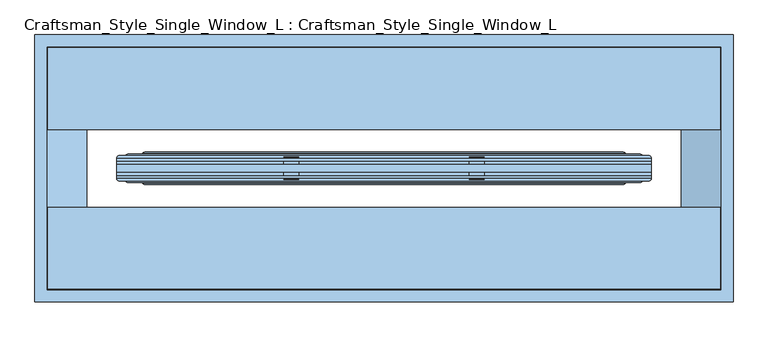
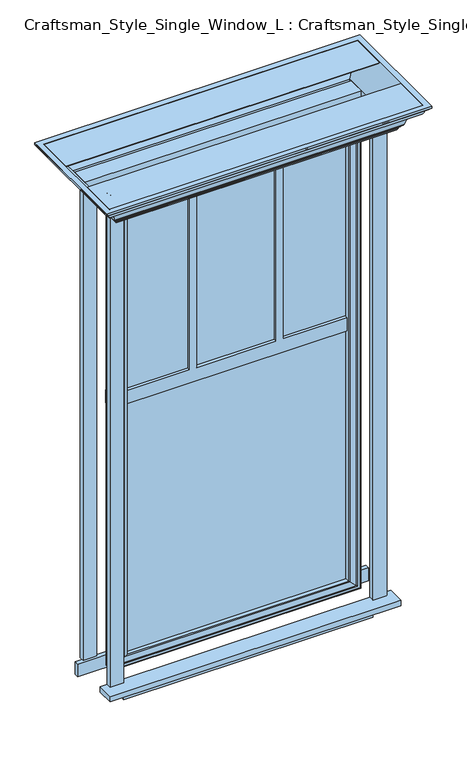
"""IFC4 building model written with IfcOpenShell, lengths in millimetres: window geometry, Craftsman_Style_Single_Window_L : Craftsman_Style_Single_Window_L."""

from ifc_helpers import new_model, si_unit, frame, origin, place, context, project, spatial, polyline, ellipse_curve, outline, extrude, source, transform, mapped, element, save
from ifc_brep_helpers import plane_surface, cylinder_surface, revolved_surface, advanced_brep


def craftsman_style_single_window_l_craftsman_style_single_78b914de(model_context):
    return source(origin(), model_context, "Body", "SolidModel", [
        extrude(outline(polyline([(507.9425208, 76.2), (457.2321354, 76.2), (457.2321354, 95.25), (507.9425208, 95.25), (507.9425208, 76.2)])), frame((0.0, 0.0, 914.4574792), z_axis=(0.0, 0.0, 1.0), x_axis=(1.0, 0.0, 0.0)), (0.0, 0.0, 1.0), 1828.7425208),
        extrude(outline(polyline([(-457.2574792, 76.2), (-508.0574792, 76.2), (-508.0574792, 95.25), (-457.2574792, 95.25), (-457.2574792, 76.2)])), frame((0.0, 0.0, 914.4), z_axis=(0.0, 0.0, 1.0), x_axis=(1.0, 0.0, 0.0)), (0.0, 0.0, 1.0), 1828.8),
        extrude(outline(polyline([(-457.1836897, -95.25), (-507.9425208, -95.25), (-507.9425208, -76.2), (-457.1836897, -76.2), (-457.1836897, -95.25)])), frame((0.0, 0.0, 914.4574792), z_axis=(0.0, 0.0, 1.0), x_axis=(1.0, 0.0, 0.0)), (0.0, 0.0, 1.0), 1828.7264525),
        extrude(outline(polyline([(508.0163103, -95.25), (457.2163103, -95.25), (457.2163103, -76.2), (508.0163103, -76.2), (508.0163103, -95.25)])), frame((0.0, 0.0, 914.3839317), z_axis=(0.0, 0.0, 1.0), x_axis=(1.0, 0.0, 0.0)), (0.0, 0.0, 1.0), 1828.8),
        advanced_brep(
        [(406.3425208, 12.9504719, 2692.3425208), (406.3425208, 27.586435, 2692.3425208), (406.3425208, 27.586435, 965.2574792), (406.3425208, 12.9504719, 965.2574792), (413.5984811, 25.375079, 2699.5984811), (413.5984811, 25.375079, 958.0015189), (-406.3425208, 27.586435, 965.2574792), (-406.3425208, 12.9504719, 965.2574792), (410.0284768, 12.9504719, 2696.0284768), (-410.0284768, 12.9504719, 2696.0284768), (-410.0284768, 12.9504719, 961.5715232), (410.0284768, 12.9504719, 961.5715232), (-406.3425208, 12.9504719, 2692.3425208), (411.1859948, 14.1079899, 2697.1859948), (411.1859948, 14.1079899, 960.4140052), (-411.1859948, 14.1079899, 960.4140052), (430.0429611, 14.1079899, 2716.0429611), (-430.0429611, 14.1079899, 2716.0429611), (-430.0429611, 14.1079899, 941.5570389), (430.0429611, 14.1079899, 941.5570389), (-411.1859948, 14.1079899, 2697.1859948), (431.2842472, 12.9504719, 2717.2842472), (431.2842472, 12.9504719, 940.3157528), (-431.2842472, 12.9504719, 940.3157528), (457.1425208, 12.9504719, 2743.1425208), (-457.1425208, 12.9504719, 2743.1425208), (-457.1425208, 12.9504719, 914.4574792), (457.1425208, 12.9504719, 914.4574792), (-431.2842472, 12.9504719, 2717.2842472), (457.1425208, 16.8138023, 2743.1425208), (457.1425208, 16.8138023, 914.4574792), (-457.1425208, 16.8138023, 914.4574792), (452.3810299, 21.6743318, 2738.3810299), (452.3810299, 21.6743318, 919.2189701), (-452.3810299, 21.6743318, 919.2189701), (-452.3810299, 21.6743318, 2738.3810299), (442.5211044, 21.6743318, 2728.5211044), (-442.5211044, 21.6743318, 2728.5211044), (-442.5211044, 21.6743318, 929.0788956), (442.5211044, 21.6743318, 929.0788956), (436.9638136, 24.2001393, 2722.9638136), (436.9638136, 24.2001393, 934.6361864), (-436.9638136, 24.2001393, 934.6361864), (-413.5984811, 25.375079, 958.0015189), (-406.3425208, 27.586435, 2692.3425208), (-457.1425208, 16.8138023, 2743.1425208), (-436.9638136, 24.2001393, 2722.9638136), (-413.5984811, 25.375079, 2699.5984811)],
        [
            (0, 1),
            (1, 2),
            (2, 3),
            (3, 0),
            (1, 4, ellipse_curve(frame((408.0559717, 20.1987526, 2694.0559717), z_axis=(0.7071067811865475, 0.0, -0.7071067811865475), x_axis=(0.7071067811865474, 0.0, 0.7071067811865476)), 10.7250889, 7.5837831)),
            (4, 5),
            (5, 2, ellipse_curve(frame((408.0559717, 20.1987526, 963.5440283), z_axis=(0.7071067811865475, 0.0, 0.7071067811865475), x_axis=(-0.7071067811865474, 0.0, 0.7071067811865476)), 10.7250889, 7.5837831)),
            (2, 6),
            (6, 7),
            (7, 3),
            (8, 9),
            (9, 10),
            (10, 11),
            (11, 8),
            (7, 12),
            (12, 0),
            (13, 8),
            (11, 14),
            (14, 13),
            (10, 15),
            (15, 14),
            (16, 17),
            (17, 18),
            (18, 19),
            (19, 16),
            (15, 20),
            (20, 13),
            (21, 16),
            (19, 22),
            (22, 21),
            (18, 23),
            (23, 22),
            (24, 25),
            (25, 26),
            (26, 27),
            (27, 24),
            (23, 28),
            (28, 21),
            (29, 24),
            (27, 30),
            (30, 29),
            (26, 31),
            (31, 30),
            (32, 29, ellipse_curve(frame((452.3810299, 16.9118318, 2738.3810299), z_axis=(0.7071067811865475, 0.0, -0.7071067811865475), x_axis=(0.7071067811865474, 0.0, 0.7071067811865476)), 6.7351921, 4.7625)),
            (30, 33, ellipse_curve(frame((452.3810299, 16.9118318, 919.2189701), z_axis=(0.7071067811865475, 0.0, 0.7071067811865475), x_axis=(-0.7071067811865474, 0.0, 0.7071067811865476)), 6.7351921, 4.7625)),
            (33, 32),
            (31, 34, ellipse_curve(frame((-452.3810299, 16.9118318, 919.2189701), z_axis=(0.7071067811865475, 0.0, -0.7071067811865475), x_axis=(0.7071067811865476, 0.0, 0.7071067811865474)), 6.7351921, 4.7625)),
            (34, 33),
            (34, 35),
            (35, 32),
            (36, 37),
            (37, 38),
            (38, 39),
            (39, 36),
            (40, 36, ellipse_curve(frame((437.7371633, 18.5251767, 2723.7371633), z_axis=(0.7071067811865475, 0.0, -0.7071067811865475), x_axis=(0.7071067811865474, 0.0, 0.7071067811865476)), 8.0997864, 5.7274139)),
            (39, 41, ellipse_curve(frame((437.7371633, 18.5251767, 933.8628367), z_axis=(0.7071067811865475, 0.0, 0.7071067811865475), x_axis=(-0.7071067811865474, 0.0, 0.7071067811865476)), 8.0997864, 5.7274139)),
            (41, 40),
            (38, 42, ellipse_curve(frame((-437.7371633, 18.5251767, 933.8628367), z_axis=(0.7071067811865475, 0.0, -0.7071067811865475), x_axis=(0.7071067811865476, 0.0, 0.7071067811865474)), 8.0997864, 5.7274139)),
            (42, 41),
            (4, 40, ellipse_curve(frame((428.4085351, 86.9801248, 2714.4085351), z_axis=(-0.7071067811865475, 0.0, 0.7071067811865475), x_axis=(-0.7071067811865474, 0.0, -0.7071067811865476)), 89.6049036, 63.3602349)),
            (41, 5, ellipse_curve(frame((428.4085351, 86.9801248, 943.1914649), z_axis=(-0.7071067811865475, 0.0, -0.7071067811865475), x_axis=(0.7071067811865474, 0.0, -0.7071067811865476)), 89.6049036, 63.3602349)),
            (42, 43, ellipse_curve(frame((-428.4085351, 86.9801248, 943.1914649), z_axis=(-0.7071067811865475, 0.0, 0.7071067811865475), x_axis=(-0.7071067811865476, 0.0, -0.7071067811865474)), 89.6049036, 63.3602349)),
            (43, 5),
            (43, 6, ellipse_curve(frame((-408.0559717, 20.1987526, 963.5440283), z_axis=(0.7071067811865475, 0.0, -0.7071067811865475), x_axis=(0.7071067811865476, 0.0, 0.7071067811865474)), 10.7250889, 7.5837831)),
            (6, 44),
            (44, 12),
            (9, 20),
            (17, 28),
            (25, 45),
            (45, 31),
            (45, 35, ellipse_curve(frame((-452.3810299, 16.9118318, 2738.3810299), z_axis=(-0.7071067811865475, 0.0, -0.7071067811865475), x_axis=(0.7071067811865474, 0.0, -0.7071067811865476)), 6.7351921, 4.7625)),
            (37, 46, ellipse_curve(frame((-437.7371633, 18.5251767, 2723.7371633), z_axis=(-0.7071067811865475, 0.0, -0.7071067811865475), x_axis=(0.7071067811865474, 0.0, -0.7071067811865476)), 8.0997864, 5.7274139)),
            (46, 42),
            (46, 47, ellipse_curve(frame((-428.4085351, 86.9801248, 2714.4085351), z_axis=(0.7071067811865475, 0.0, 0.7071067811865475), x_axis=(-0.7071067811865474, 0.0, 0.7071067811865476)), 89.6049036, 63.3602349)),
            (47, 43),
            (47, 44, ellipse_curve(frame((-408.0559717, 20.1987526, 2694.0559717), z_axis=(-0.7071067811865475, 0.0, -0.7071067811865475), x_axis=(0.7071067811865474, 0.0, -0.7071067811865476)), 10.7250889, 7.5837831)),
            (44, 1),
            (29, 45),
            (40, 46),
            (4, 47),
        ],
        [
            plane_surface(frame((406.3425208, 27.586435, 2692.3425208), z_axis=(-1.0, 0.0, 0.0), x_axis=(0.0, 0.0, -1.0))),
            cylinder_surface(frame((408.0559717, 20.1987526, 2743.2), z_axis=(0.0, 0.0, 1.0), x_axis=(0.0, 1.0, 0.0)), 7.5837831),
            plane_surface(frame((406.3425208, 27.586435, 965.2574792), z_axis=(0.0, 0.0, 1.0), x_axis=(-1.0, 0.0, 0.0))),
            plane_surface(frame((-406.3425208, 12.9504719, 2692.3425208), z_axis=(0.0, -1.0, 0.0), x_axis=(1.0, 0.0, 0.0))),
            plane_surface(frame((410.0284768, 12.9504719, 2696.0284768), z_axis=(0.707106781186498, -0.7071067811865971, 0.0), x_axis=(0.0, 0.0, -1.0))),
            plane_surface(frame((410.0284768, 12.9504719, 961.5715232), z_axis=(0.0, -0.7071067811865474, -0.7071067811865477), x_axis=(-1.0, 0.0, 0.0))),
            plane_surface(frame((-411.1859948, 14.1079899, 2697.1859948), z_axis=(0.0, -1.0, 0.0), x_axis=(1.0, 0.0, 0.0))),
            plane_surface(frame((430.0429611, 14.1079899, 2716.0429611), z_axis=(-0.6819983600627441, -0.7313537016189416, 0.0), x_axis=(0.0, 0.0, -1.0))),
            plane_surface(frame((430.0429611, 14.1079899, 941.5570389), z_axis=(0.0, -0.7313537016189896, 0.6819983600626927), x_axis=(-1.0, 0.0, 0.0))),
            plane_surface(frame((-431.2842472, 12.9504719, 2717.2842472), z_axis=(0.0, -1.0, 0.0), x_axis=(1.0, 0.0, 0.0))),
            plane_surface(frame((457.1425208, 12.9504719, 2743.1425208), z_axis=(1.0, 0.0, 0.0), x_axis=(0.0, 0.0, -1.0))),
            plane_surface(frame((457.1425208, 12.9504719, 914.4574792), z_axis=(0.0, 0.0, -1.0), x_axis=(-1.0, 0.0, 0.0))),
            cylinder_surface(frame((452.3810299, 16.9118318, 2743.2), z_axis=(0.0, 0.0, 1.0), x_axis=(0.0, 1.0, 0.0)), 4.7625),
            cylinder_surface(frame((457.2, 16.9118318, 919.2189701), z_axis=(1.0, 0.0, 0.0), x_axis=(0.0, 1.0, 0.0)), 4.7625),
            plane_surface(frame((-452.3810299, 21.6743318, 2738.3810299), z_axis=(0.0, 1.0, 0.0), x_axis=(1.0, 0.0, 0.0))),
            cylinder_surface(frame((437.7371633, 18.5251767, 2743.2), z_axis=(0.0, 0.0, 1.0), x_axis=(0.0, 1.0, 0.0)), 5.7274139),
            cylinder_surface(frame((457.2, 18.5251767, 933.8628367), z_axis=(1.0, 0.0, 0.0), x_axis=(0.0, 1.0, 0.0)), 5.7274139),
            revolved_surface(polyline([(428.4085351, 150.3403597, 879.8312299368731), (428.4085351, 150.3403597, 2777.768770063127)]), (428.4085351, 86.9801248, 2743.2), (0.0, 0.0, -1.0)),
            revolved_surface(polyline([(-491.76877006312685, 150.3403597, 943.1914649), (491.76877006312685, 150.3403597, 943.1914649)]), (457.2, 86.9801248, 943.1914649), (-1.0, 0.0, 0.0)),
            cylinder_surface(frame((457.2, 20.1987526, 963.5440283), z_axis=(1.0, 0.0, 0.0), x_axis=(0.0, 1.0, 0.0)), 7.5837831),
            plane_surface(frame((-406.3425208, 27.586435, 965.2574792), z_axis=(1.0, 0.0, 0.0), x_axis=(0.0, 0.0, 1.0))),
            plane_surface(frame((-410.0284768, 12.9504719, 961.5715232), z_axis=(-0.7071067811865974, -0.7071067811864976, 0.0), x_axis=(0.0, 0.0, 1.0))),
            plane_surface(frame((-430.0429611, 14.1079899, 941.5570389), z_axis=(0.6819983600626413, -0.7313537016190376, 0.0), x_axis=(0.0, 0.0, 1.0))),
            plane_surface(frame((-457.1425208, 12.9504719, 914.4574792), z_axis=(-1.0, 0.0, 0.0), x_axis=(0.0, 0.0, 1.0))),
            cylinder_surface(frame((-452.3810299, 16.9118318, 914.4), z_axis=(0.0, 0.0, -1.0), x_axis=(0.0, 1.0, 0.0)), 4.7625),
            cylinder_surface(frame((-437.7371633, 18.5251767, 914.4), z_axis=(0.0, 0.0, -1.0), x_axis=(0.0, 1.0, 0.0)), 5.7274139),
            revolved_surface(polyline([(-428.4085351, 150.3403597, 2777.768770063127), (-428.4085351, 150.3403597, 879.8312299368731)]), (-428.4085351, 86.9801248, 914.4), (0.0, 0.0, 1.0)),
            cylinder_surface(frame((-408.0559717, 20.1987526, 914.4), z_axis=(0.0, 0.0, -1.0), x_axis=(0.0, 1.0, 0.0)), 7.5837831),
            plane_surface(frame((-406.3425208, 27.586435, 2692.3425208), z_axis=(0.0, 0.0, -1.0), x_axis=(1.0, 0.0, 0.0))),
            plane_surface(frame((-410.0284768, 12.9504719, 2696.0284768), z_axis=(0.0, -0.7071067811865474, 0.7071067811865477), x_axis=(1.0, 0.0, 0.0))),
            plane_surface(frame((-430.0429611, 14.1079899, 2716.0429611), z_axis=(0.0, -0.7313537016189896, -0.6819983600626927), x_axis=(1.0, 0.0, 0.0))),
            plane_surface(frame((-457.1425208, 12.9504719, 2743.1425208), z_axis=(0.0, 0.0, 1.0), x_axis=(1.0, 0.0, 0.0))),
            cylinder_surface(frame((-457.2, 16.9118318, 2738.3810299), z_axis=(-1.0, 0.0, 0.0), x_axis=(0.0, 1.0, 0.0)), 4.7625),
            cylinder_surface(frame((-457.2, 18.5251767, 2723.7371633), z_axis=(-1.0, 0.0, 0.0), x_axis=(0.0, 1.0, 0.0)), 5.7274139),
            revolved_surface(polyline([(491.76877006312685, 150.3403597, 2714.4085351), (-491.76877006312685, 150.3403597, 2714.4085351)]), (-457.2, 86.9801248, 2714.4085351), (1.0, 0.0, 0.0)),
            cylinder_surface(frame((-457.2, 20.1987526, 2694.0559717), z_axis=(-1.0, 0.0, 0.0), x_axis=(0.0, 1.0, 0.0)), 7.5837831),
        ],
        [
            (0, [[1, 2, 3, 4]]),
            (1, [[5, 6, 7, -2]]),
            (2, [[-3, 8, 9, 10]]),
            (3, [[11, 12, 13, 14], [-10, 15, 16, -4]]),
            (4, [[17, -14, 18, 19]]),
            (5, [[-18, -13, 20, 21]]),
            (6, [[22, 23, 24, 25], [-21, 26, 27, -19]]),
            (7, [[28, -25, 29, 30]]),
            (8, [[-29, -24, 31, 32]]),
            (9, [[33, 34, 35, 36], [-32, 37, 38, -30]]),
            (10, [[39, -36, 40, 41]]),
            (11, [[-40, -35, 42, 43]]),
            (12, [[44, -41, 45, 46]]),
            (13, [[-45, -43, 47, 48]]),
            (14, [[-48, 49, 50, -46], [51, 52, 53, 54]]),
            (15, [[55, -54, 56, 57]]),
            (16, [[-56, -53, 58, 59]]),
            (17, [[60, -57, 61, -6]]),
            (18, [[-61, -59, 62, 63]]),
            (19, [[-7, -63, 64, -8]]),
            (20, [[-9, 65, 66, -15]]),
            (21, [[-20, -12, 67, -26]]),
            (22, [[-31, -23, 68, -37]]),
            (23, [[-42, -34, 69, 70]]),
            (24, [[-47, -70, 71, -49]]),
            (25, [[-58, -52, 72, 73]]),
            (26, [[-62, -73, 74, 75]]),
            (27, [[-64, -75, 76, -65]]),
            (28, [[-66, 77, -1, -16]]),
            (29, [[-67, -11, -17, -27]]),
            (30, [[-68, -22, -28, -38]]),
            (31, [[-69, -33, -39, 78]]),
            (32, [[-71, -78, -44, -50]]),
            (33, [[-72, -51, -55, 79]]),
            (34, [[-74, -79, -60, 80]]),
            (35, [[-76, -80, -5, -77]]),
        ],
    ),
        advanced_brep(
        [(-406.3425208, -12.7, 2692.3425208), (-406.3425208, -27.3359632, 2692.3425208), (-406.3425208, -27.3359632, 965.2574792), (-406.3425208, -12.7, 965.2574792), (-413.5984811, -25.1246071, 2699.5984811), (-413.5984811, -25.1246071, 958.0015189), (406.3425208, -27.3359632, 965.2574792), (406.3425208, -12.7, 965.2574792), (-410.0284768, -12.7, 2696.0284768), (410.0284768, -12.7, 2696.0284768), (410.0284768, -12.7, 961.5715232), (-410.0284768, -12.7, 961.5715232), (406.3425208, -12.7, 2692.3425208), (-411.1859948, -13.857518, 2697.1859948), (-411.1859948, -13.857518, 960.4140052), (411.1859948, -13.857518, 960.4140052), (-430.0429611, -13.857518, 2716.0429611), (430.0429611, -13.857518, 2716.0429611), (430.0429611, -13.857518, 941.5570389), (-430.0429611, -13.857518, 941.5570389), (411.1859948, -13.857518, 2697.1859948), (-431.2842472, -12.7, 2717.2842472), (-431.2842472, -12.7, 940.3157528), (431.2842472, -12.7, 940.3157528), (-457.1425208, -12.7, 2743.1425208), (457.1425208, -12.7, 2743.1425208), (457.1425208, -12.7, 914.4574792), (-457.1425208, -12.7, 914.4574792), (431.2842472, -12.7, 2717.2842472), (-457.1425208, -16.5633304, 2743.1425208), (-457.1425208, -16.5633304, 914.4574792), (457.1425208, -16.5633304, 914.4574792), (-452.3810299, -21.4238599, 2738.3810299), (-452.3810299, -21.4238599, 919.2189701), (452.3810299, -21.4238599, 919.2189701), (452.3810299, -21.4238599, 2738.3810299), (-442.5211044, -21.4238599, 2728.5211044), (442.5211044, -21.4238599, 2728.5211044), (442.5211044, -21.4238599, 929.0788956), (-442.5211044, -21.4238599, 929.0788956), (-436.9638136, -23.9496674, 2722.9638136), (-436.9638136, -23.9496674, 934.6361864), (436.9638136, -23.9496674, 934.6361864), (413.5984811, -25.1246071, 958.0015189), (406.3425208, -27.3359632, 2692.3425208), (457.1425208, -16.5633304, 2743.1425208), (436.9638136, -23.9496674, 2722.9638136), (413.5984811, -25.1246071, 2699.5984811)],
        [
            (0, 1),
            (1, 2),
            (2, 3),
            (3, 0),
            (1, 4, ellipse_curve(frame((-408.0559717, -19.9482807, 2694.0559717), z_axis=(-0.7071067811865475, 0.0, -0.7071067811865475), x_axis=(-0.7071067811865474, 0.0, 0.7071067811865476)), 10.7250889, 7.5837831)),
            (4, 5),
            (5, 2, ellipse_curve(frame((-408.0559717, -19.9482807, 963.5440283), z_axis=(-0.7071067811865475, 0.0, 0.7071067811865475), x_axis=(0.7071067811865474, 0.0, 0.7071067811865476)), 10.7250889, 7.5837831)),
            (2, 6),
            (6, 7),
            (7, 3),
            (8, 9),
            (9, 10),
            (10, 11),
            (11, 8),
            (7, 12),
            (12, 0),
            (13, 8),
            (11, 14),
            (14, 13),
            (10, 15),
            (15, 14),
            (16, 17),
            (17, 18),
            (18, 19),
            (19, 16),
            (15, 20),
            (20, 13),
            (21, 16),
            (19, 22),
            (22, 21),
            (18, 23),
            (23, 22),
            (24, 25),
            (25, 26),
            (26, 27),
            (27, 24),
            (23, 28),
            (28, 21),
            (29, 24),
            (27, 30),
            (30, 29),
            (26, 31),
            (31, 30),
            (32, 29, ellipse_curve(frame((-452.3810299, -16.6613599, 2738.3810299), z_axis=(-0.7071067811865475, 0.0, -0.7071067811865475), x_axis=(-0.7071067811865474, 0.0, 0.7071067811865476)), 6.7351921, 4.7625)),
            (30, 33, ellipse_curve(frame((-452.3810299, -16.6613599, 919.2189701), z_axis=(-0.7071067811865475, 0.0, 0.7071067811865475), x_axis=(0.7071067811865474, 0.0, 0.7071067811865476)), 6.7351921, 4.7625)),
            (33, 32),
            (31, 34, ellipse_curve(frame((452.3810299, -16.6613599, 919.2189701), z_axis=(-0.7071067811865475, 0.0, -0.7071067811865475), x_axis=(-0.7071067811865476, 0.0, 0.7071067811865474)), 6.7351921, 4.7625)),
            (34, 33),
            (34, 35),
            (35, 32),
            (36, 37),
            (37, 38),
            (38, 39),
            (39, 36),
            (40, 36, ellipse_curve(frame((-437.7371633, -18.2747049, 2723.7371633), z_axis=(-0.7071067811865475, 0.0, -0.7071067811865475), x_axis=(-0.7071067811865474, 0.0, 0.7071067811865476)), 8.0997864, 5.7274139)),
            (39, 41, ellipse_curve(frame((-437.7371633, -18.2747049, 933.8628367), z_axis=(-0.7071067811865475, 0.0, 0.7071067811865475), x_axis=(0.7071067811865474, 0.0, 0.7071067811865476)), 8.0997864, 5.7274139)),
            (41, 40),
            (38, 42, ellipse_curve(frame((437.7371633, -18.2747049, 933.8628367), z_axis=(-0.7071067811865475, 0.0, -0.7071067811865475), x_axis=(-0.7071067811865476, 0.0, 0.7071067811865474)), 8.0997864, 5.7274139)),
            (42, 41),
            (4, 40, ellipse_curve(frame((-428.4085351, -86.7296529, 2714.4085351), z_axis=(0.7071067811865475, 0.0, 0.7071067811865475), x_axis=(0.7071067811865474, 0.0, -0.7071067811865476)), 89.6049036, 63.3602349)),
            (41, 5, ellipse_curve(frame((-428.4085351, -86.7296529, 943.1914649), z_axis=(0.7071067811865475, 0.0, -0.7071067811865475), x_axis=(-0.7071067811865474, 0.0, -0.7071067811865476)), 89.6049036, 63.3602349)),
            (42, 43, ellipse_curve(frame((428.4085351, -86.7296529, 943.1914649), z_axis=(0.7071067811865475, 0.0, 0.7071067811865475), x_axis=(0.7071067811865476, 0.0, -0.7071067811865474)), 89.6049036, 63.3602349)),
            (43, 5),
            (43, 6, ellipse_curve(frame((408.0559717, -19.9482807, 963.5440283), z_axis=(-0.7071067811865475, 0.0, -0.7071067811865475), x_axis=(-0.7071067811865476, 0.0, 0.7071067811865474)), 10.7250889, 7.5837831)),
            (6, 44),
            (44, 12),
            (9, 20),
            (17, 28),
            (25, 45),
            (45, 31),
            (45, 35, ellipse_curve(frame((452.3810299, -16.6613599, 2738.3810299), z_axis=(0.7071067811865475, 0.0, -0.7071067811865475), x_axis=(-0.7071067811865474, 0.0, -0.7071067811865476)), 6.7351921, 4.7625)),
            (37, 46, ellipse_curve(frame((437.7371633, -18.2747049, 2723.7371633), z_axis=(0.7071067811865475, 0.0, -0.7071067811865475), x_axis=(-0.7071067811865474, 0.0, -0.7071067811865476)), 8.0997864, 5.7274139)),
            (46, 42),
            (46, 47, ellipse_curve(frame((428.4085351, -86.7296529, 2714.4085351), z_axis=(-0.7071067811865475, 0.0, 0.7071067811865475), x_axis=(0.7071067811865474, 0.0, 0.7071067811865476)), 89.6049036, 63.3602349)),
            (47, 43),
            (47, 44, ellipse_curve(frame((408.0559717, -19.9482807, 2694.0559717), z_axis=(0.7071067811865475, 0.0, -0.7071067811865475), x_axis=(-0.7071067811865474, 0.0, -0.7071067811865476)), 10.7250889, 7.5837831)),
            (44, 1),
            (29, 45),
            (40, 46),
            (4, 47),
        ],
        [
            plane_surface(frame((-406.3425208, -27.3359632, 2692.3425208), z_axis=(1.0, 0.0, 0.0), x_axis=(0.0, 0.0, -1.0))),
            cylinder_surface(frame((-408.0559717, -19.9482807, 2743.2), z_axis=(0.0, 0.0, 1.0), x_axis=(0.0, -1.0, 0.0)), 7.5837831),
            plane_surface(frame((-406.3425208, -27.3359632, 965.2574792), z_axis=(0.0, 0.0, 1.0), x_axis=(1.0, 0.0, 0.0))),
            plane_surface(frame((406.3425208, -12.7, 2692.3425208), z_axis=(0.0, 1.0, 0.0), x_axis=(-1.0, 0.0, 0.0))),
            plane_surface(frame((-410.0284768, -12.7, 2696.0284768), z_axis=(-0.7071067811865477, 0.7071067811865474, 0.0), x_axis=(0.0, 0.0, -1.0))),
            plane_surface(frame((-410.0284768, -12.7, 961.5715232), z_axis=(0.0, 0.7071067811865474, -0.7071067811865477), x_axis=(1.0, 0.0, 0.0))),
            plane_surface(frame((411.1859948, -13.857518, 2697.1859948), z_axis=(0.0, 1.0, 0.0), x_axis=(-1.0, 0.0, 0.0))),
            plane_surface(frame((-430.0429611, -13.857518, 2716.0429611), z_axis=(0.6819983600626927, 0.7313537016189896, 0.0), x_axis=(0.0, 0.0, -1.0))),
            plane_surface(frame((-430.0429611, -13.857518, 941.5570389), z_axis=(0.0, 0.7313537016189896, 0.6819983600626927), x_axis=(1.0, 0.0, 0.0))),
            plane_surface(frame((431.2842472, -12.7, 2717.2842472), z_axis=(0.0, 1.0, 0.0), x_axis=(-1.0, 0.0, 0.0))),
            plane_surface(frame((-457.1425208, -12.7, 2743.1425208), z_axis=(-1.0, 0.0, 0.0), x_axis=(0.0, 0.0, -1.0))),
            plane_surface(frame((-457.1425208, -12.7, 914.4574792), z_axis=(0.0, 0.0, -1.0), x_axis=(1.0, 0.0, 0.0))),
            cylinder_surface(frame((-452.3810299, -16.6613599, 2743.2), z_axis=(0.0, 0.0, 1.0), x_axis=(0.0, -1.0, 0.0)), 4.7625),
            cylinder_surface(frame((-457.2, -16.6613599, 919.2189701), z_axis=(-1.0, 0.0, 0.0), x_axis=(0.0, -1.0, 0.0)), 4.7625),
            plane_surface(frame((452.3810299, -21.4238599, 2738.3810299), z_axis=(0.0, -1.0, 0.0), x_axis=(-1.0, 0.0, 0.0))),
            cylinder_surface(frame((-437.7371633, -18.2747049, 2743.2), z_axis=(0.0, 0.0, 1.0), x_axis=(0.0, -1.0, 0.0)), 5.7274139),
            cylinder_surface(frame((-457.2, -18.2747049, 933.8628367), z_axis=(-1.0, 0.0, 0.0), x_axis=(0.0, -1.0, 0.0)), 5.7274139),
            revolved_surface(polyline([(-428.4085351, -150.0898878, 879.8312299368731), (-428.4085351, -150.0898878, 2777.768770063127)]), (-428.4085351, -86.7296529, 2743.2), (0.0, 0.0, -1.0)),
            revolved_surface(polyline([(491.76877006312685, -150.0898878, 943.1914649), (-491.76877006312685, -150.0898878, 943.1914649)]), (-457.2, -86.7296529, 943.1914649), (1.0, 0.0, 0.0)),
            cylinder_surface(frame((-457.2, -19.9482807, 963.5440283), z_axis=(-1.0, 0.0, 0.0), x_axis=(0.0, -1.0, 0.0)), 7.5837831),
            plane_surface(frame((406.3425208, -27.3359632, 965.2574792), z_axis=(-1.0, 0.0, 0.0), x_axis=(0.0, 0.0, 1.0))),
            plane_surface(frame((410.0284768, -12.7, 961.5715232), z_axis=(0.7071067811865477, 0.7071067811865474, 0.0), x_axis=(0.0, 0.0, 1.0))),
            plane_surface(frame((430.0429611, -13.857518, 941.5570389), z_axis=(-0.6819983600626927, 0.7313537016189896, 0.0), x_axis=(0.0, 0.0, 1.0))),
            plane_surface(frame((457.1425208, -12.7, 914.4574792), z_axis=(1.0, 0.0, 0.0), x_axis=(0.0, 0.0, 1.0))),
            cylinder_surface(frame((452.3810299, -16.6613599, 914.4), z_axis=(0.0, 0.0, -1.0), x_axis=(0.0, -1.0, 0.0)), 4.7625),
            cylinder_surface(frame((437.7371633, -18.2747049, 914.4), z_axis=(0.0, 0.0, -1.0), x_axis=(0.0, -1.0, 0.0)), 5.7274139),
            revolved_surface(polyline([(428.4085351, -150.0898878, 2777.768770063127), (428.4085351, -150.0898878, 879.8312299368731)]), (428.4085351, -86.7296529, 914.4), (0.0, 0.0, 1.0)),
            cylinder_surface(frame((408.0559717, -19.9482807, 914.4), z_axis=(0.0, 0.0, -1.0), x_axis=(0.0, -1.0, 0.0)), 7.5837831),
            plane_surface(frame((406.3425208, -27.3359632, 2692.3425208), z_axis=(0.0, 0.0, -1.0), x_axis=(-1.0, 0.0, 0.0))),
            plane_surface(frame((410.0284768, -12.7, 2696.0284768), z_axis=(0.0, 0.7071067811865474, 0.7071067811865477), x_axis=(-1.0, 0.0, 0.0))),
            plane_surface(frame((430.0429611, -13.857518, 2716.0429611), z_axis=(0.0, 0.7313537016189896, -0.6819983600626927), x_axis=(-1.0, 0.0, 0.0))),
            plane_surface(frame((457.1425208, -12.7, 2743.1425208), z_axis=(0.0, 0.0, 1.0), x_axis=(-1.0, 0.0, 0.0))),
            cylinder_surface(frame((457.2, -16.6613599, 2738.3810299), z_axis=(1.0, 0.0, 0.0), x_axis=(0.0, -1.0, 0.0)), 4.7625),
            cylinder_surface(frame((457.2, -18.2747049, 2723.7371633), z_axis=(1.0, 0.0, 0.0), x_axis=(0.0, -1.0, 0.0)), 5.7274139),
            revolved_surface(polyline([(-491.76877006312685, -150.0898878, 2714.4085351), (491.76877006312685, -150.0898878, 2714.4085351)]), (457.2, -86.7296529, 2714.4085351), (-1.0, 0.0, 0.0)),
            cylinder_surface(frame((457.2, -19.9482807, 2694.0559717), z_axis=(1.0, 0.0, 0.0), x_axis=(0.0, -1.0, 0.0)), 7.5837831),
        ],
        [
            (0, [[1, 2, 3, 4]]),
            (1, [[5, 6, 7, -2]]),
            (2, [[-3, 8, 9, 10]]),
            (3, [[11, 12, 13, 14], [-10, 15, 16, -4]]),
            (4, [[17, -14, 18, 19]]),
            (5, [[-18, -13, 20, 21]]),
            (6, [[22, 23, 24, 25], [-21, 26, 27, -19]]),
            (7, [[28, -25, 29, 30]]),
            (8, [[-29, -24, 31, 32]]),
            (9, [[33, 34, 35, 36], [-32, 37, 38, -30]]),
            (10, [[39, -36, 40, 41]]),
            (11, [[-40, -35, 42, 43]]),
            (12, [[44, -41, 45, 46]]),
            (13, [[-45, -43, 47, 48]]),
            (14, [[-48, 49, 50, -46], [51, 52, 53, 54]]),
            (15, [[55, -54, 56, 57]]),
            (16, [[-56, -53, 58, 59]]),
            (17, [[60, -57, 61, -6]]),
            (18, [[-61, -59, 62, 63]]),
            (19, [[-7, -63, 64, -8]]),
            (20, [[-9, 65, 66, -15]]),
            (21, [[-20, -12, 67, -26]]),
            (22, [[-31, -23, 68, -37]]),
            (23, [[-42, -34, 69, 70]]),
            (24, [[-47, -70, 71, -49]]),
            (25, [[-58, -52, 72, 73]]),
            (26, [[-62, -73, 74, 75]]),
            (27, [[-64, -75, 76, -65]]),
            (28, [[-66, 77, -1, -16]]),
            (29, [[-67, -11, -17, -27]]),
            (30, [[-68, -22, -28, -38]]),
            (31, [[-69, -33, -39, 78]]),
            (32, [[-71, -78, -44, -50]]),
            (33, [[-72, -51, -55, 79]]),
            (34, [[-74, -79, -60, 80]]),
            (35, [[-76, -80, -5, -77]]),
        ],
    ),
        extrude(outline(polyline([(457.2, -6.35), (-457.2, -6.35), (-457.2, 6.35), (457.2, 6.35), (457.2, -6.35)])), frame((0.0, 0.0, 914.4), z_axis=(0.0, 0.0, 1.0), x_axis=(1.0, 0.0, 0.0)), (0.0, 0.0, 1.0), 1828.8),
        extrude(outline(polyline([(2743.2, -146.05), (2743.2, -171.45), (1981.2, -171.45), (1981.2, -457.2), (1930.4, -457.2), (1930.4, 457.2), (1981.2, 457.2), (1981.2, 171.45), (2743.2, 171.45), (2743.2, 146.05), (1981.2, 146.05), (1981.2, -146.05), (2743.2, -146.05)])), frame((0.0, -19.05, 0.0), z_axis=(0.0, 1.0, 0.0), x_axis=(0.0, 0.0, 1.0)), (0.0, 0.0, 1.0), 12.7),
        extrude(outline(polyline([(1981.2, 171.45), (2743.2, 171.45), (2743.2, 146.05), (1981.2, 146.05), (1981.2, -146.05), (2743.2, -146.05), (2743.2, -171.45), (1981.2, -171.45), (1981.2, -457.2), (1930.4, -457.2), (1930.4, 457.2), (1981.2, 457.2), (1981.2, 171.45)])), frame((0.0, 6.35, 0.0), z_axis=(0.0, 1.0, 0.0), x_axis=(0.0, 0.0, 1.0)), (0.0, 0.0, 1.0), 12.7),
        extrude(outline(polyline([(-596.8425208, -219.075), (-596.8425208, -66.675), (596.9163103, -66.675), (596.9163103, -219.075), (-596.8425208, -219.075)])), frame((0.0, 0.0, 2857.5), z_axis=(0.0, 0.0, 1.0), x_axis=(1.0, 0.0, 0.0)), (0.0, 0.0, 1.0), 1.5875),
        extrude(outline(polyline([(-596.8425208, 219.075), (596.9163103, 219.075), (596.9163103, 66.675), (-596.8425208, 66.675), (-596.8425208, 219.075)])), frame((0.0, 0.0, 2857.5), z_axis=(0.0, 0.0, 1.0), x_axis=(1.0, 0.0, 0.0)), (0.0, 0.0, 1.0), 1.5875),
        advanced_brep(
        [(596.9163103, 228.6, 2853.5231102), (596.9163103, 228.6, 2860.674973), (596.9163103, -228.6, 2860.674973), (596.9163103, -228.6, 2853.5231102), (590.9514665, 222.6351561, 2850.0736257), (594.4009509, 226.0846406, 2853.5231102), (594.4009509, -226.0846406, 2853.5231102), (590.9514665, -222.6351561, 2850.0736257), (582.1537736, 213.8374633, 2843.8952934), (582.1537736, -213.8374633, 2843.8952934), (579.3852098, 211.0688995, 2838.4448146), (579.3852098, 211.0688995, 2843.8952934), (579.3852098, -211.0688995, 2843.8952934), (579.3852098, -211.0688995, 2838.4448146), (565.8560542, 197.5397438, 2819.1192936), (565.8560542, -197.5397438, 2819.1192936), (558.6138249, 190.2975145, 2814.3944168), (558.6138249, -190.2975145, 2814.3944168), (533.1175631, 164.8012527, 2775.7304653), (533.1175631, -164.8012527, 2775.7304653), (529.8901881, 161.5738778, 2770.6957604), (529.8901881, 161.5738778, 2775.7304653), (529.8901881, -161.5738778, 2775.7304653), (529.8901881, -161.5738778, 2770.6957604), (519.1753034, 150.8589931, 2760.2907037), (526.3013472, 157.9850369, 2770.6957604), (526.3013472, -157.9850369, 2770.6957604), (519.1753034, -150.8589931, 2760.2907037), (519.1753034, 150.8589931, 2756.0047498), (519.1753034, -150.8589931, 2756.0047498), (515.1991775, 146.8828672, 2749.55), (515.1991775, -146.8828672, 2749.55), (508.0163103, 139.7, 2774.1669306), (508.0163103, 139.7, 2749.55), (508.0163103, -139.7, 2749.55), (508.0163103, -139.7, 2774.1669306), (576.2094729, 207.8931626, 2860.674973), (576.2094729, -207.8931626, 2860.674973), (-596.8425208, -228.6, 2860.674973), (-596.8425208, -228.6, 2853.5231102), (-594.3271615, -226.0846406, 2853.5231102), (-590.877677, -222.6351561, 2850.0736257), (-582.0799841, -213.8374633, 2843.8952934), (-579.3114203, -211.0688995, 2843.8952934), (-579.3114203, -211.0688995, 2838.4448146), (-565.7822647, -197.5397438, 2819.1192936), (-558.5400354, -190.2975145, 2814.3944168), (-533.0437736, -164.8012527, 2775.7304653), (-529.8163987, -161.5738778, 2775.7304653), (-529.8163987, -161.5738778, 2770.6957604), (-526.2275577, -157.9850369, 2770.6957604), (-519.1015139, -150.8589931, 2760.2907037), (-519.1015139, -150.8589931, 2756.0047498), (-515.125388, -146.8828672, 2749.55), (-507.9425208, -139.7, 2749.55), (-507.9425208, -139.7, 2774.1669306), (-576.1356834, -207.8931626, 2860.674973), (-596.8425208, 228.6, 2860.674973), (-596.8425208, 228.6, 2853.5231102), (-594.3271615, 226.0846406, 2853.5231102), (-590.877677, 222.6351561, 2850.0736257), (-582.0799841, 213.8374633, 2843.8952934), (-579.3114203, 211.0688995, 2843.8952934), (-579.3114203, 211.0688995, 2838.4448146), (-565.7822647, 197.5397438, 2819.1192936), (-558.5400354, 190.2975145, 2814.3944168), (-533.0437736, 164.8012527, 2775.7304653), (-529.8163987, 161.5738778, 2775.7304653), (-529.8163987, 161.5738778, 2770.6957604), (-526.2275577, 157.9850369, 2770.6957604), (-519.1015139, 150.8589931, 2760.2907037), (-519.1015139, 150.8589931, 2756.0047498), (-515.125388, 146.8828672, 2749.55), (-507.9425208, 139.7, 2749.55), (-507.9425208, 139.7, 2774.1669306), (-576.1356834, 207.8931626, 2860.674973)],
        [
            (0, 1),
            (1, 2),
            (2, 3),
            (3, 0),
            (4, 5, ellipse_curve(frame((598.2354514, 229.919141, 2846.2391253), z_axis=(-0.7071067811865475, 0.7071067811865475, 0.0), x_axis=(-0.7071067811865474, -0.7071067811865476, 0.0)), 11.6412911, 8.2316359)),
            (5, 6),
            (6, 7, ellipse_curve(frame((598.2354514, -229.919141, 2846.2391253), z_axis=(-0.7071067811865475, -0.7071067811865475, 0.0), x_axis=(0.7071067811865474, -0.7071067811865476, 0.0)), 11.6412911, 8.2316359)),
            (7, 4),
            (8, 4, ellipse_curve(frame((583.0961003, 214.7797899, 2851.9064026), z_axis=(0.7071067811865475, -0.7071067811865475, 0.0), x_axis=(0.7071067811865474, 0.7071067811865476, 0.0)), 11.4075282, 8.0663405)),
            (7, 9, ellipse_curve(frame((583.0961003, -214.7797899, 2851.9064026), z_axis=(0.7071067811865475, 0.7071067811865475, 0.0), x_axis=(-0.7071067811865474, 0.7071067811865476, 0.0)), 11.4075282, 8.0663405)),
            (9, 8),
            (10, 11),
            (11, 12),
            (12, 13),
            (13, 10),
            (14, 10, ellipse_curve(frame((557.5478629, 189.2315525, 2839.3339994), z_axis=(0.7071067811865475, -0.7071067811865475, 0.0), x_axis=(0.7071067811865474, 0.7071067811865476, 0.0)), 30.9082633, 21.8554426)),
            (13, 15, ellipse_curve(frame((557.5478629, -189.2315525, 2839.3339994), z_axis=(0.7071067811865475, 0.7071067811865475, 0.0), x_axis=(-0.7071067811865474, 0.7071067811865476, 0.0)), 30.9082633, 21.8554426)),
            (15, 14),
            (16, 14),
            (15, 17),
            (17, 16),
            (18, 16, ellipse_curve(frame((580.065965, 211.7496547, 2772.5096746), z_axis=(-0.7071067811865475, 0.7071067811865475, 0.0), x_axis=(-0.7071067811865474, -0.7071067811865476, 0.0)), 66.5511223, 47.0587499)),
            (17, 19, ellipse_curve(frame((580.065965, -211.7496547, 2772.5096746), z_axis=(-0.7071067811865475, -0.7071067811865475, 0.0), x_axis=(0.7071067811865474, -0.7071067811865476, 0.0)), 66.5511223, 47.0587499)),
            (19, 18),
            (20, 21),
            (21, 22),
            (22, 23),
            (23, 20),
            (24, 25, ellipse_curve(frame((515.8137808, 147.4974704, 2770.2356001), z_axis=(0.7071067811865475, -0.7071067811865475, 0.0), x_axis=(0.7071067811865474, 0.7071067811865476, 0.0)), 14.8459286, 10.4976568)),
            (25, 26),
            (26, 27, ellipse_curve(frame((515.8137808, -147.4974704, 2770.2356001), z_axis=(0.7071067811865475, 0.7071067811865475, 0.0), x_axis=(-0.7071067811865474, 0.7071067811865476, 0.0)), 14.8459286, 10.4976568)),
            (27, 24),
            (28, 24),
            (27, 29),
            (29, 28),
            (30, 28, ellipse_curve(frame((522.4525969, 154.1362866, 2749.5339154), z_axis=(-0.7071067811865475, 0.7071067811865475, 0.0), x_axis=(-0.7071067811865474, -0.7071067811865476, 0.0)), 10.2579093, 7.2534372)),
            (29, 31, ellipse_curve(frame((522.4525969, -154.1362866, 2749.5339154), z_axis=(-0.7071067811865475, -0.7071067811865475, 0.0), x_axis=(0.7071067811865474, -0.7071067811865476, 0.0)), 10.2579093, 7.2534372)),
            (31, 30),
            (32, 33),
            (33, 34),
            (34, 35),
            (35, 32),
            (36, 32),
            (35, 37),
            (37, 36),
            (2, 38),
            (38, 39),
            (39, 3),
            (6, 40),
            (40, 41, ellipse_curve(frame((-598.1616619, -229.919141, 2846.2391253), z_axis=(-0.7071067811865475, 0.7071067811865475, 0.0), x_axis=(-0.7071067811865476, -0.7071067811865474, 0.0)), 11.6412911, 8.2316359)),
            (41, 7),
            (41, 42, ellipse_curve(frame((-583.0223108, -214.7797899, 2851.9064026), z_axis=(0.7071067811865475, -0.7071067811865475, 0.0), x_axis=(0.7071067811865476, 0.7071067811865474, 0.0)), 11.4075282, 8.0663405)),
            (42, 9),
            (12, 43),
            (43, 44),
            (44, 13),
            (44, 45, ellipse_curve(frame((-557.4740734, -189.2315525, 2839.3339994), z_axis=(0.7071067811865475, -0.7071067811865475, 0.0), x_axis=(0.7071067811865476, 0.7071067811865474, 0.0)), 30.9082633, 21.8554426)),
            (45, 15),
            (45, 46),
            (46, 17),
            (46, 47, ellipse_curve(frame((-579.9921756, -211.7496547, 2772.5096746), z_axis=(-0.7071067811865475, 0.7071067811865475, 0.0), x_axis=(-0.7071067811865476, -0.7071067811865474, 0.0)), 66.5511223, 47.0587499)),
            (47, 19),
            (22, 48),
            (48, 49),
            (49, 23),
            (26, 50),
            (50, 51, ellipse_curve(frame((-515.7399913, -147.4974704, 2770.2356001), z_axis=(0.7071067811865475, -0.7071067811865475, 0.0), x_axis=(0.7071067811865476, 0.7071067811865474, 0.0)), 14.8459286, 10.4976568)),
            (51, 27),
            (51, 52),
            (52, 29),
            (52, 53, ellipse_curve(frame((-522.3788074, -154.1362866, 2749.5339154), z_axis=(-0.7071067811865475, 0.7071067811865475, 0.0), x_axis=(-0.7071067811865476, -0.7071067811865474, 0.0)), 10.2579093, 7.2534372)),
            (53, 31),
            (34, 54),
            (54, 55),
            (55, 35),
            (55, 56),
            (56, 37),
            (38, 57),
            (57, 58),
            (58, 39),
            (40, 59),
            (59, 60, ellipse_curve(frame((-598.1616619, 229.919141, 2846.2391253), z_axis=(0.7071067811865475, 0.7071067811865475, 0.0), x_axis=(-0.7071067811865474, 0.7071067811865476, 0.0)), 11.6412911, 8.2316359)),
            (60, 41),
            (60, 61, ellipse_curve(frame((-583.0223108, 214.7797899, 2851.9064026), z_axis=(-0.7071067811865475, -0.7071067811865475, 0.0), x_axis=(0.7071067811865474, -0.7071067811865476, 0.0)), 11.4075282, 8.0663405)),
            (61, 42),
            (43, 62),
            (62, 63),
            (63, 44),
            (63, 64, ellipse_curve(frame((-557.4740734, 189.2315525, 2839.3339994), z_axis=(-0.7071067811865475, -0.7071067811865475, 0.0), x_axis=(0.7071067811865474, -0.7071067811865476, 0.0)), 30.9082633, 21.8554426)),
            (64, 45),
            (64, 65),
            (65, 46),
            (65, 66, ellipse_curve(frame((-579.9921756, 211.7496547, 2772.5096746), z_axis=(0.7071067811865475, 0.7071067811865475, 0.0), x_axis=(-0.7071067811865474, 0.7071067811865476, 0.0)), 66.5511223, 47.0587499)),
            (66, 47),
            (48, 67),
            (67, 68),
            (68, 49),
            (50, 69),
            (69, 70, ellipse_curve(frame((-515.7399913, 147.4974704, 2770.2356001), z_axis=(-0.7071067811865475, -0.7071067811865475, 0.0), x_axis=(0.7071067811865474, -0.7071067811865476, 0.0)), 14.8459286, 10.4976568)),
            (70, 51),
            (70, 71),
            (71, 52),
            (71, 72, ellipse_curve(frame((-522.3788074, 154.1362866, 2749.5339154), z_axis=(0.7071067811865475, 0.7071067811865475, 0.0), x_axis=(-0.7071067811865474, 0.7071067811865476, 0.0)), 10.2579093, 7.2534372)),
            (72, 53),
            (54, 73),
            (73, 74),
            (74, 55),
            (74, 75),
            (75, 56),
            (1, 57),
            (75, 36),
            (0, 58),
            (5, 59),
            (4, 60),
            (8, 61),
            (11, 62),
            (10, 63),
            (14, 64),
            (16, 65),
            (18, 66),
            (21, 67),
            (20, 68),
            (25, 69),
            (24, 70),
            (28, 71),
            (30, 72),
            (33, 73),
            (32, 74),
        ],
        [
            plane_surface(frame((596.9163103, 228.6, 2860.674973), z_axis=(1.0, 0.0, 0.0), x_axis=(0.0, -1.0, 0.0))),
            revolved_surface(polyline([(606.4670873, -238.1507768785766, 2846.2391253), (606.4670873, 238.1507768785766, 2846.2391253)]), (598.2354514, 139.7, 2846.2391253), (0.0, -1.0, 0.0)),
            cylinder_surface(frame((583.0961003, 139.7, 2851.9064026), z_axis=(0.0, 1.0, 0.0), x_axis=(1.0, 0.0, 0.0)), 8.0663405),
            plane_surface(frame((579.3852098, 211.0688995, 2843.8952934), z_axis=(1.0, 0.0, 0.0), x_axis=(0.0, -1.0, 0.0))),
            cylinder_surface(frame((557.5478629, 139.7, 2839.3339994), z_axis=(0.0, 1.0, 0.0), x_axis=(1.0, 0.0, 0.0)), 21.8554426),
            plane_surface(frame((565.8560542, 197.5397438, 2819.1192936), z_axis=(0.5464043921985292, 0.0, -0.8375214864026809), x_axis=(0.0, -1.0, 0.0))),
            revolved_surface(polyline([(627.1247149, -258.8084045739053, 2772.5096746), (627.1247149, 258.80840457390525, 2772.5096746)]), (580.065965, 139.7, 2772.5096746), (0.0, -1.0, 0.0)),
            plane_surface(frame((529.8901881, 161.5738778, 2775.7304653), z_axis=(1.0, 0.0, 0.0), x_axis=(0.0, -1.0, 0.0))),
            cylinder_surface(frame((515.8137808, 139.7, 2770.2356001), z_axis=(0.0, 1.0, 0.0), x_axis=(1.0, 0.0, 0.0)), 10.4976568),
            plane_surface(frame((519.1753034, 150.8589931, 2760.2907037), z_axis=(1.0, 0.0, 0.0), x_axis=(0.0, -1.0, 0.0))),
            revolved_surface(polyline([(529.7060341, -161.38972382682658, 2749.5339154), (529.7060341, 161.38972382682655, 2749.5339154)]), (522.4525969, 139.7, 2749.5339154), (0.0, -1.0, 0.0)),
            plane_surface(frame((508.0163103, 139.7, 2749.55), z_axis=(-1.0, 0.0, 0.0), x_axis=(0.0, -1.0, 0.0))),
            plane_surface(frame((508.0163103, 139.7, 2774.1669306), z_axis=(-0.7853358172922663, 0.0, 0.6190699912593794), x_axis=(0.0, -1.0, 0.0))),
            plane_surface(frame((596.9163103, -228.6, 2860.674973), z_axis=(0.0, -1.0, 0.0), x_axis=(-1.0, 0.0, 0.0))),
            revolved_surface(polyline([(-606.3932977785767, -238.15077689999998, 2846.2391253), (606.4670872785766, -238.15077689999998, 2846.2391253)]), (508.0163103, -229.919141, 2846.2391253), (-1.0, 0.0, 0.0)),
            cylinder_surface(frame((508.0163103, -214.7797899, 2851.9064026), z_axis=(1.0, 0.0, 0.0), x_axis=(0.0, -1.0, 0.0)), 8.0663405),
            plane_surface(frame((579.3852098, -211.0688995, 2843.8952934), z_axis=(0.0, -1.0, 0.0), x_axis=(-1.0, 0.0, 0.0))),
            cylinder_surface(frame((508.0163103, -189.2315525, 2839.3339994), z_axis=(1.0, 0.0, 0.0), x_axis=(0.0, -1.0, 0.0)), 21.8554426),
            plane_surface(frame((565.8560542, -197.5397438, 2819.1192936), z_axis=(0.0, -0.5464043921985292, -0.8375214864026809), x_axis=(-1.0, 0.0, 0.0))),
            revolved_surface(polyline([(-627.0509254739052, -258.8084046, 2772.5096746), (627.1247148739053, -258.8084046, 2772.5096746)]), (508.0163103, -211.7496547, 2772.5096746), (-1.0, 0.0, 0.0)),
            plane_surface(frame((529.8901881, -161.5738778, 2775.7304653), z_axis=(0.0, -1.0, 0.0), x_axis=(-1.0, 0.0, 0.0))),
            cylinder_surface(frame((508.0163103, -147.4974704, 2770.2356001), z_axis=(1.0, 0.0, 0.0), x_axis=(0.0, -1.0, 0.0)), 10.4976568),
            plane_surface(frame((519.1753034, -150.8589931, 2760.2907037), z_axis=(0.0, -1.0, 0.0), x_axis=(-1.0, 0.0, 0.0))),
            revolved_surface(polyline([(-529.6322446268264, -161.3897238, 2749.5339154), (529.7060341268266, -161.3897238, 2749.5339154)]), (508.0163103, -154.1362866, 2749.5339154), (-1.0, 0.0, 0.0)),
            plane_surface(frame((508.0163103, -139.7, 2749.55), z_axis=(0.0, 1.0, 0.0), x_axis=(-1.0, 0.0, 0.0))),
            plane_surface(frame((508.0163103, -139.7, 2774.1669306), z_axis=(0.0, 0.7853358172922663, 0.6190699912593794), x_axis=(-1.0, 0.0, 0.0))),
            plane_surface(frame((-596.8425208, -228.6, 2860.674973), z_axis=(-1.0, 0.0, 0.0), x_axis=(0.0, 1.0, 0.0))),
            revolved_surface(polyline([(-606.3932978, 238.1507768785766, 2846.2391253), (-606.3932978, -238.1507768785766, 2846.2391253)]), (-598.1616619, -139.7, 2846.2391253), (0.0, 1.0, 0.0)),
            cylinder_surface(frame((-583.0223108, -139.7, 2851.9064026), z_axis=(0.0, -1.0, 0.0), x_axis=(-1.0, 0.0, 0.0)), 8.0663405),
            plane_surface(frame((-579.3114203, -211.0688995, 2843.8952934), z_axis=(-1.0, 0.0, 0.0), x_axis=(0.0, 1.0, 0.0))),
            cylinder_surface(frame((-557.4740734, -139.7, 2839.3339994), z_axis=(0.0, -1.0, 0.0), x_axis=(-1.0, 0.0, 0.0)), 21.8554426),
            plane_surface(frame((-565.7822647, -197.5397438, 2819.1192936), z_axis=(-0.5464043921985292, 0.0, -0.8375214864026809), x_axis=(0.0, 1.0, 0.0))),
            revolved_surface(polyline([(-627.0509255, 258.8084045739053, 2772.5096746), (-627.0509255, -258.80840457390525, 2772.5096746)]), (-579.9921756, -139.7, 2772.5096746), (0.0, 1.0, 0.0)),
            plane_surface(frame((-529.8163987, -161.5738778, 2775.7304653), z_axis=(-1.0, 0.0, 0.0), x_axis=(0.0, 1.0, 0.0))),
            cylinder_surface(frame((-515.7399913, -139.7, 2770.2356001), z_axis=(0.0, -1.0, 0.0), x_axis=(-1.0, 0.0, 0.0)), 10.4976568),
            plane_surface(frame((-519.1015139, -150.8589931, 2760.2907037), z_axis=(-1.0, 0.0, 0.0), x_axis=(0.0, 1.0, 0.0))),
            revolved_surface(polyline([(-529.6322446, 161.38972382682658, 2749.5339154), (-529.6322446, -161.38972382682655, 2749.5339154)]), (-522.3788074, -139.7, 2749.5339154), (0.0, 1.0, 0.0)),
            plane_surface(frame((-507.9425208, -139.7, 2749.55), z_axis=(1.0, 0.0, 0.0), x_axis=(0.0, 1.0, 0.0))),
            plane_surface(frame((-507.9425208, -139.7, 2774.1669306), z_axis=(0.7853358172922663, 0.0, 0.6190699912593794), x_axis=(0.0, 1.0, 0.0))),
            plane_surface(frame((-576.1356834, 207.8931626, 2860.674973), z_axis=(0.0, 0.0, 1.0), x_axis=(1.0, 0.0, 0.0))),
            plane_surface(frame((-596.8425208, 228.6, 2860.674973), z_axis=(0.0, 1.0, 0.0), x_axis=(1.0, 0.0, 0.0))),
            plane_surface(frame((-596.8425208, 228.6, 2853.5231102), z_axis=(0.0, 0.0, -1.0), x_axis=(1.0, 0.0, 0.0))),
            revolved_surface(polyline([(606.4670872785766, 238.15077689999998, 2846.2391253), (-606.3932977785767, 238.15077689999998, 2846.2391253)]), (-507.9425208, 229.919141, 2846.2391253), (1.0, 0.0, 0.0)),
            cylinder_surface(frame((-507.9425208, 214.7797899, 2851.9064026), z_axis=(-1.0, 0.0, 0.0), x_axis=(0.0, 1.0, 0.0)), 8.0663405),
            plane_surface(frame((-582.0799841, 213.8374633, 2843.8952934), z_axis=(0.0, 0.0, -1.0), x_axis=(1.0, 0.0, 0.0))),
            plane_surface(frame((-579.3114203, 211.0688995, 2843.8952934), z_axis=(0.0, 1.0, 0.0), x_axis=(1.0, 0.0, 0.0))),
            cylinder_surface(frame((-507.9425208, 189.2315525, 2839.3339994), z_axis=(-1.0, 0.0, 0.0), x_axis=(0.0, 1.0, 0.0)), 21.8554426),
            plane_surface(frame((-565.7822647, 197.5397438, 2819.1192936), z_axis=(0.0, 0.5464043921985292, -0.8375214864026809), x_axis=(1.0, 0.0, 0.0))),
            revolved_surface(polyline([(627.1247148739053, 258.8084046, 2772.5096746), (-627.0509254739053, 258.8084046, 2772.5096746)]), (-507.9425208, 211.7496547, 2772.5096746), (1.0, 0.0, 0.0)),
            plane_surface(frame((-533.0437736, 164.8012527, 2775.7304653), z_axis=(0.0, 0.0, -1.0), x_axis=(1.0, 0.0, 0.0))),
            plane_surface(frame((-529.8163987, 161.5738778, 2775.7304653), z_axis=(0.0, 1.0, 0.0), x_axis=(1.0, 0.0, 0.0))),
            plane_surface(frame((-529.8163987, 161.5738778, 2770.6957604), z_axis=(0.0, 0.0, -1.0), x_axis=(1.0, 0.0, 0.0))),
            cylinder_surface(frame((-507.9425208, 147.4974704, 2770.2356001), z_axis=(-1.0, 0.0, 0.0), x_axis=(0.0, 1.0, 0.0)), 10.4976568),
            plane_surface(frame((-519.1015139, 150.8589931, 2760.2907037), z_axis=(0.0, 1.0, 0.0), x_axis=(1.0, 0.0, 0.0))),
            revolved_surface(polyline([(529.7060341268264, 161.3897238, 2749.5339154), (-529.6322446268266, 161.3897238, 2749.5339154)]), (-507.9425208, 154.1362866, 2749.5339154), (1.0, 0.0, 0.0)),
            plane_surface(frame((-515.125388, 146.8828672, 2749.55), z_axis=(0.0, 0.0, -1.0), x_axis=(1.0, 0.0, 0.0))),
            plane_surface(frame((-507.9425208, 139.7, 2749.55), z_axis=(0.0, -1.0, 0.0), x_axis=(1.0, 0.0, 0.0))),
            plane_surface(frame((-507.9425208, 139.7, 2774.1669306), z_axis=(0.0, -0.7853358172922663, 0.6190699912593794), x_axis=(1.0, 0.0, 0.0))),
        ],
        [
            (0, [[1, 2, 3, 4]]),
            (1, [[5, 6, 7, 8]]),
            (2, [[9, -8, 10, 11]]),
            (3, [[12, 13, 14, 15]]),
            (4, [[16, -15, 17, 18]]),
            (5, [[19, -18, 20, 21]]),
            (6, [[22, -21, 23, 24]]),
            (7, [[25, 26, 27, 28]]),
            (8, [[29, 30, 31, 32]]),
            (9, [[33, -32, 34, 35]]),
            (10, [[36, -35, 37, 38]]),
            (11, [[39, 40, 41, 42]]),
            (12, [[43, -42, 44, 45]]),
            (13, [[-3, 46, 47, 48]]),
            (14, [[-7, 49, 50, 51]]),
            (15, [[-10, -51, 52, 53]]),
            (16, [[-14, 54, 55, 56]]),
            (17, [[-17, -56, 57, 58]]),
            (18, [[-20, -58, 59, 60]]),
            (19, [[-23, -60, 61, 62]]),
            (20, [[-27, 63, 64, 65]]),
            (21, [[-31, 66, 67, 68]]),
            (22, [[-34, -68, 69, 70]]),
            (23, [[-37, -70, 71, 72]]),
            (24, [[-41, 73, 74, 75]]),
            (25, [[-44, -75, 76, 77]]),
            (26, [[-47, 78, 79, 80]]),
            (27, [[-50, 81, 82, 83]]),
            (28, [[-52, -83, 84, 85]]),
            (29, [[-55, 86, 87, 88]]),
            (30, [[-57, -88, 89, 90]]),
            (31, [[-59, -90, 91, 92]]),
            (32, [[-61, -92, 93, 94]]),
            (33, [[-64, 95, 96, 97]]),
            (34, [[-67, 98, 99, 100]]),
            (35, [[-69, -100, 101, 102]]),
            (36, [[-71, -102, 103, 104]]),
            (37, [[-74, 105, 106, 107]]),
            (38, [[-76, -107, 108, 109]]),
            (39, [[110, -78, -46, -2], [-77, -109, 111, -45]]),
            (40, [[-79, -110, -1, 112]]),
            (41, [[-48, -80, -112, -4], [113, -81, -49, -6]]),
            (42, [[-82, -113, -5, 114]]),
            (43, [[-84, -114, -9, 115]]),
            (44, [[-53, -85, -115, -11], [116, -86, -54, -13]]),
            (45, [[-87, -116, -12, 117]]),
            (46, [[-89, -117, -16, 118]]),
            (47, [[-91, -118, -19, 119]]),
            (48, [[-93, -119, -22, 120]]),
            (49, [[-62, -94, -120, -24], [121, -95, -63, -26]]),
            (50, [[-96, -121, -25, 122]]),
            (51, [[-65, -97, -122, -28], [123, -98, -66, -30]]),
            (52, [[-99, -123, -29, 124]]),
            (53, [[-101, -124, -33, 125]]),
            (54, [[-103, -125, -36, 126]]),
            (55, [[-72, -104, -126, -38], [127, -105, -73, -40]]),
            (56, [[-106, -127, -39, 128]]),
            (57, [[-108, -128, -43, -111]]),
        ],
    ),
        extrude(outline(polyline([(508.0163103, 66.675), (-507.9425208, 66.675), (-507.9425208, 130.175), (508.0163103, 130.175), (508.0163103, 66.675)])), frame((0.0, 0.0, 2743.2), z_axis=(0.0, 0.0, 1.0), x_axis=(1.0, 0.0, 0.0)), (0.0, 0.0, 1.0), 30.9429653),
        extrude(outline(polyline([(-533.3425208, 83.08846), (533.4574792, 83.08846), (533.4574792, 66.675), (-533.3425208, 66.675), (-533.3425208, 83.08846)])), frame((0.0, 0.0, 865.3417486), z_axis=(0.0, 0.0, 1.0), x_axis=(1.0, 0.0, 0.0)), (0.0, 0.0, 1.0), 49.0582514),
        extrude(outline(polyline([(508.0163103, -66.675), (508.0163103, -130.175), (-507.9425208, -130.175), (-507.9425208, -66.675), (508.0163103, -66.675)])), frame((0.0, 0.0, 2743.2), z_axis=(0.0, 0.0, 1.0), x_axis=(1.0, 0.0, 0.0)), (0.0, 0.0, 1.0), 30.9429653),
        extrude(outline(polyline([(457.2, -95.25), (-457.2, -95.25), (-457.2, -76.2), (457.2, -76.2), (457.2, -95.25)])), frame((0.0, 0.0, 848.906742), z_axis=(0.0, 0.0, 1.0), x_axis=(1.0, 0.0, 0.0)), (0.0, 0.0, 1.0), 44.45),
        extrude(outline(polyline([(533.3425208, -139.7), (-533.3425208, -139.7), (-533.3425208, -76.2), (533.3425208, -76.2), (533.3425208, -139.7)])), frame((0.0, 0.0, 893.356742), z_axis=(0.0, 0.0, 1.0), x_axis=(1.0, 0.0, 0.0)), (0.0, 0.0, 1.0), 21.0271897),
    ])


if __name__ == "__main__":
    model = new_model("IFC4")
    model_context = context("Model", 3, world=origin())
    ifc_project = project(units=[si_unit("LENGTHUNIT", "METRE", prefix="MILLI")], contexts=[model_context])
    site = spatial("IfcSite", under=ifc_project)
    building = spatial("IfcBuilding", under=site)
    placement = place(None, origin())
    craftsman_style_single_window_l_craftsman_style_single_shape = craftsman_style_single_window_l_craftsman_style_single_78b914de(model_context)
    element("IfcWindow", 1, ObjectType="Craftsman_Style_Single_Window_L : Craftsman_Style_Single_Window_L", at=placement, inside=building, context=model_context, shape_type="MappedRepresentation", body=[
        mapped(craftsman_style_single_window_l_craftsman_style_single_shape, transform((0.0, 0.0, 0.0), x_axis=(1.0, 0.0, 0.0), y_axis=(0.0, 1.0, 0.0), z_axis=(0.0, 0.0, 1.0))),
    ])
    save(model, "model.ifc")
